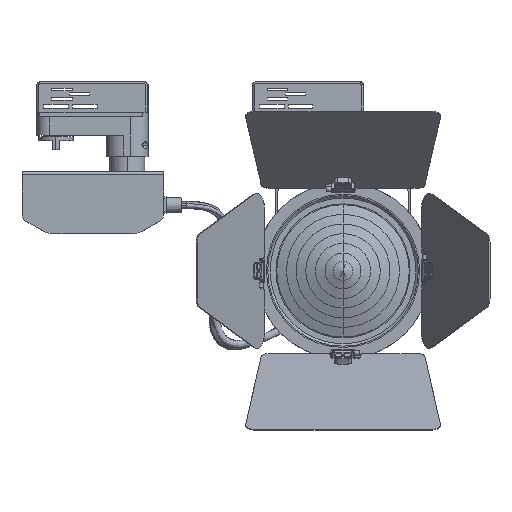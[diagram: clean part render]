
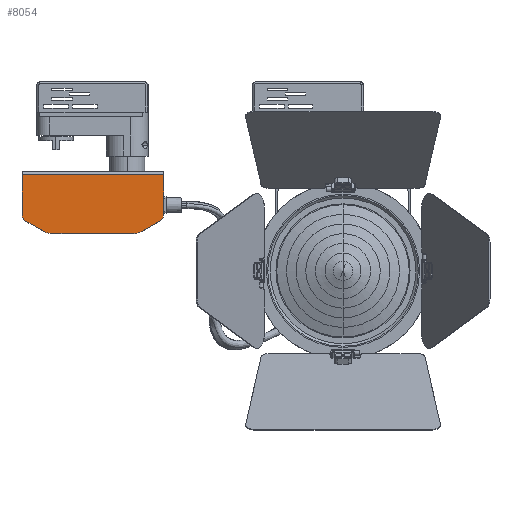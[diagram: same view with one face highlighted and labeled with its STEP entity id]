
A CAD part, top view. The second image highlights one B-rep face of the part: STEP entity #8054.
In plain terms, the highlighted planar face has unit normal (0, 0, 1) as drawn and (0, 0, -1) by its records, which use the part's own axes.
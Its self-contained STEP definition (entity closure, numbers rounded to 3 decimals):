
#362 = FACE_OUTER_BOUND ( 'NONE', #49500, .T. ) ;
#601 = ORIENTED_EDGE ( 'NONE', *, *, #7611, .T. ) ;
#798 = DIRECTION ( 'NONE',  ( 0., 0., 1. ) ) ;
#941 = CIRCLE ( 'NONE', #31375, 6.8 ) ;
#2818 = ORIENTED_EDGE ( 'NONE', *, *, #15249, .T. ) ;
#2917 = DIRECTION ( 'NONE',  ( -1., 0., 0. ) ) ;
#3107 = CARTESIAN_POINT ( 'NONE',  ( 57.35, -84.002, -32.4 ) ) ;
#4229 = DIRECTION ( 'NONE',  ( 1., 0., 0. ) ) ;
#4258 = AXIS2_PLACEMENT_3D ( 'NONE', #12603, #798, #43214 ) ;
#6308 = EDGE_CURVE ( 'NONE', #10116, #38361, #32558, .T. ) ;
#6353 = DIRECTION ( 'NONE',  ( 0., 1., 0. ) ) ;
#6471 = VECTOR ( 'NONE', #6353, 1000. ) ;
#6857 = CARTESIAN_POINT ( 'NONE',  ( -58.05, -84.002, -32.4 ) ) ;
#7215 = VECTOR ( 'NONE', #31149, 1000. ) ;
#7611 = EDGE_CURVE ( 'NONE', #40154, #7779, #34278, .T. ) ;
#7779 = VERTEX_POINT ( 'NONE', #45430 ) ;
#8054 = ADVANCED_FACE ( 'NONE', ( #362 ), #47611, .F. ) ;
#8140 = DIRECTION ( 'NONE',  ( 1., 0., 0. ) ) ;
#9183 = CIRCLE ( 'NONE', #50155, 6.8 ) ;
#9899 = CARTESIAN_POINT ( 'NONE',  ( -61.45, -41., -32.4 ) ) ;
#10116 = VERTEX_POINT ( 'NONE', #31403 ) ;
#10145 = VERTEX_POINT ( 'NONE', #36144 ) ;
#11704 = EDGE_CURVE ( 'NONE', #13622, #10116, #941, .T. ) ;
#11933 = EDGE_CURVE ( 'NONE', #7779, #13622, #39703, .T. ) ;
#12603 = CARTESIAN_POINT ( 'NONE',  ( -54.65, -78.113, -32.4 ) ) ;
#13622 = VERTEX_POINT ( 'NONE', #6857 ) ;
#14135 = EDGE_CURVE ( 'NONE', #15344, #40154, #15767, .T. ) ;
#15249 = EDGE_CURVE ( 'NONE', #38361, #38713, #19320, .T. ) ;
#15344 = VERTEX_POINT ( 'NONE', #20332 ) ;
#15571 = CARTESIAN_POINT ( 'NONE',  ( -54.65, -78.113, -32.4 ) ) ;
#15767 = LINE ( 'NONE', #26272, #25486 ) ;
#16973 = ORIENTED_EDGE ( 'NONE', *, *, #30002, .T. ) ;
#17284 = ORIENTED_EDGE ( 'NONE', *, *, #46464, .T. ) ;
#19320 = LINE ( 'NONE', #42821, #40591 ) ;
#19364 = VECTOR ( 'NONE', #26831, 1000. ) ;
#20332 = CARTESIAN_POINT ( 'NONE',  ( 34.988, -94.614, -32.4 ) ) ;
#21448 = DIRECTION ( 'NONE',  ( 1., 0., 0. ) ) ;
#21614 = DIRECTION ( 'NONE',  ( 0., 0., -1. ) ) ;
#22564 = CIRCLE ( 'NONE', #38738, 14.862 ) ;
#22827 = EDGE_CURVE ( 'NONE', #45172, #15344, #22564, .T. ) ;
#23670 = CARTESIAN_POINT ( 'NONE',  ( 60.75, -78.113, -32.4 ) ) ;
#25102 = VECTOR ( 'NONE', #28739, 1000. ) ;
#25387 = LINE ( 'NONE', #23670, #7215 ) ;
#25486 = VECTOR ( 'NONE', #2917, 1000. ) ;
#26272 = CARTESIAN_POINT ( 'NONE',  ( 34.988, -94.614, -32.4 ) ) ;
#26831 = DIRECTION ( 'NONE',  ( -0.866, -0.5, 0. ) ) ;
#27421 = CARTESIAN_POINT ( 'NONE',  ( 34.988, -79.751, -32.4 ) ) ;
#28739 = DIRECTION ( 'NONE',  ( -0.866, 0.5, 0. ) ) ;
#29489 = ORIENTED_EDGE ( 'NONE', *, *, #6308, .T. ) ;
#30002 = EDGE_CURVE ( 'NONE', #38713, #10145, #25387, .T. ) ;
#31149 = DIRECTION ( 'NONE',  ( 0., -1., 0. ) ) ;
#31375 = AXIS2_PLACEMENT_3D ( 'NONE', #15571, #43960, #37450 ) ;
#31403 = CARTESIAN_POINT ( 'NONE',  ( -61.45, -78.113, -32.4 ) ) ;
#32144 = LINE ( 'NONE', #34822, #19364 ) ;
#32447 = ORIENTED_EDGE ( 'NONE', *, *, #32988, .T. ) ;
#32558 = LINE ( 'NONE', #9899, #6471 ) ;
#32988 = EDGE_CURVE ( 'NONE', #10145, #47867, #9183, .T. ) ;
#33668 = CARTESIAN_POINT ( 'NONE',  ( -35.689, -94.614, -32.4 ) ) ;
#34278 = CIRCLE ( 'NONE', #45900, 14.862 ) ;
#34822 = CARTESIAN_POINT ( 'NONE',  ( 57.35, -84.002, -32.4 ) ) ;
#35292 = DIRECTION ( 'NONE',  ( 0., 0., -1. ) ) ;
#35606 = ORIENTED_EDGE ( 'NONE', *, *, #14135, .T. ) ;
#36144 = CARTESIAN_POINT ( 'NONE',  ( 60.75, -78.113, -32.4 ) ) ;
#37127 = ORIENTED_EDGE ( 'NONE', *, *, #22827, .T. ) ;
#37450 = DIRECTION ( 'NONE',  ( 1., 0., 0. ) ) ;
#38026 = CARTESIAN_POINT ( 'NONE',  ( 53.95, -78.113, -32.4 ) ) ;
#38361 = VERTEX_POINT ( 'NONE', #48808 ) ;
#38713 = VERTEX_POINT ( 'NONE', #39108 ) ;
#38738 = AXIS2_PLACEMENT_3D ( 'NONE', #27421, #46998, #4229 ) ;
#39099 = CARTESIAN_POINT ( 'NONE',  ( 42.419, -92.622, -32.4 ) ) ;
#39108 = CARTESIAN_POINT ( 'NONE',  ( 60.75, -44., -32.4 ) ) ;
#39703 = LINE ( 'NONE', #48133, #25102 ) ;
#40154 = VERTEX_POINT ( 'NONE', #33668 ) ;
#40591 = VECTOR ( 'NONE', #42495, 1000. ) ;
#42495 = DIRECTION ( 'NONE',  ( 1., 0., 0. ) ) ;
#42821 = CARTESIAN_POINT ( 'NONE',  ( -54.65, -44., -32.4 ) ) ;
#42948 = ORIENTED_EDGE ( 'NONE', *, *, #11933, .T. ) ;
#43214 = DIRECTION ( 'NONE',  ( 1., 0., 0. ) ) ;
#43960 = DIRECTION ( 'NONE',  ( 0., 0., -1. ) ) ;
#44933 = CARTESIAN_POINT ( 'NONE',  ( -35.689, -79.751, -32.4 ) ) ;
#45172 = VERTEX_POINT ( 'NONE', #39099 ) ;
#45430 = CARTESIAN_POINT ( 'NONE',  ( -43.12, -92.622, -32.4 ) ) ;
#45900 = AXIS2_PLACEMENT_3D ( 'NONE', #44933, #21614, #21448 ) ;
#46464 = EDGE_CURVE ( 'NONE', #47867, #45172, #32144, .T. ) ;
#46998 = DIRECTION ( 'NONE',  ( 0., 0., -1. ) ) ;
#47611 = PLANE ( 'NONE',  #4258 ) ;
#47867 = VERTEX_POINT ( 'NONE', #3107 ) ;
#48133 = CARTESIAN_POINT ( 'NONE',  ( -43.12, -92.622, -32.4 ) ) ;
#48641 = ORIENTED_EDGE ( 'NONE', *, *, #11704, .T. ) ;
#48808 = CARTESIAN_POINT ( 'NONE',  ( -61.45, -44., -32.4 ) ) ;
#49500 = EDGE_LOOP ( 'NONE', ( #29489, #2818, #16973, #32447, #17284, #37127, #35606, #601, #42948, #48641 ) ) ;
#50155 = AXIS2_PLACEMENT_3D ( 'NONE', #38026, #35292, #8140 ) ;
